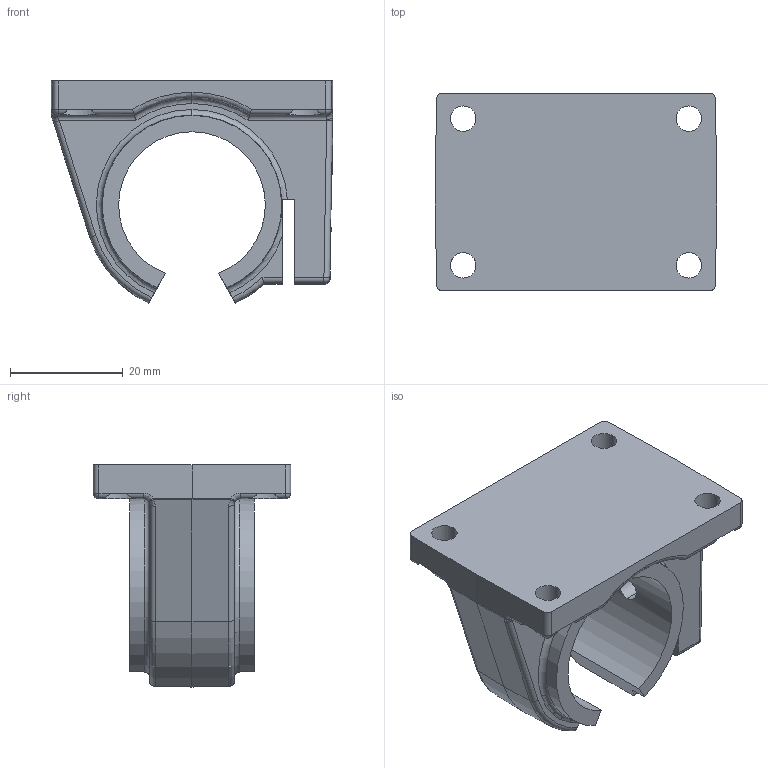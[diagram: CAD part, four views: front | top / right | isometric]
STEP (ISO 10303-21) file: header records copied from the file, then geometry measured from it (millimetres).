
FILE_DESCRIPTION (( 'STEP AP203' ), '1' );
FILE_NAME ('KGGOE68-16.step', '2020-03-10T16:20:53', ( '' ), ( '' ), 'SwSTEP 2.0', 'SolidWorks 2019', '' );
FILE_SCHEMA (( 'CONFIG_CONTROL_DESIGN' ));
Length unit declared in the file: millimetre
Products named in the file (2): KGGOE68-16
Bounding box: 49.98 x 35 x 39.36 mm (x, y, z)
Volume: 21958.8 mm3; surface area: 9639.9 mm2
Topology: 1 solids, 1 shells, 150 faces, 381 edges, 227 vertices
Faces by surface type: cylinder 65, plane 44, torus 16, cone 9, bspline 8, sphere 8
Entity records: 5132 total; most frequent: CARTESIAN_POINT 1475, ORIENTED_EDGE 754, DIRECTION 730, EDGE_CURVE 377, AXIS2_PLACEMENT_3D 288, VERTEX_POINT 227, EDGE_LOOP 162, VECTOR 154
